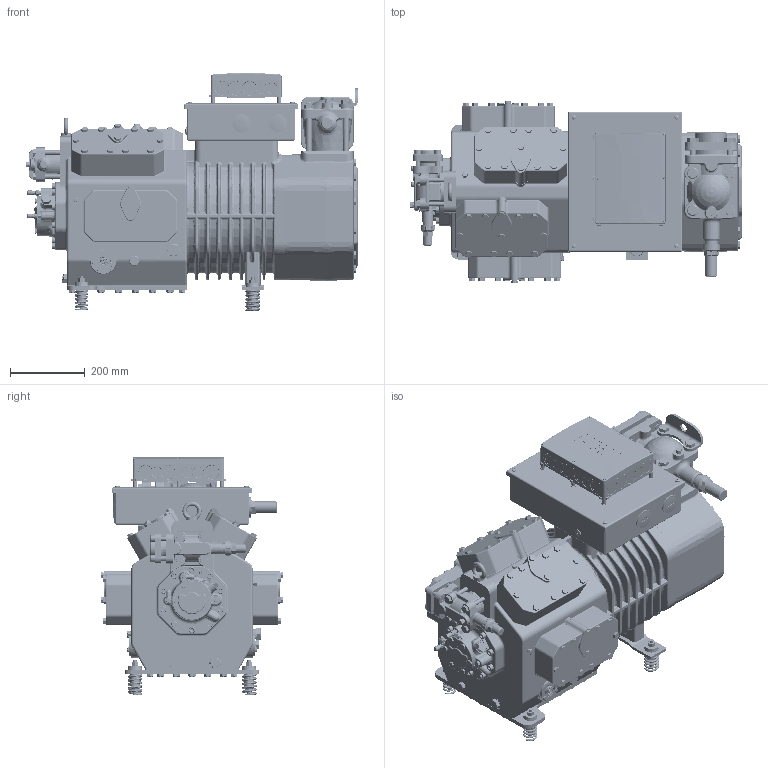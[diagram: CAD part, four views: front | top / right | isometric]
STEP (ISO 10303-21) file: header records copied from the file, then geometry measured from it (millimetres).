
FILE_DESCRIPTION(/* description */ (''),/* implementation_level */ '2;1');
FILE_NAME(/* name */ '8GE-STANDARD.stp',/* time_stamp */ '2023-10-26T09:47:43+02:00',/* author */ (''),/* organization */ (''),/* preprocessor_version */ 'ST-DEVELOPER v19.3',/* originating_system */ 'SIEMENS PLM Software NX2212.3001',/* authorisation */ '');
FILE_SCHEMA (('AUTOMOTIVE_DESIGN { 1 0 10303 214 3 1 1 1 }'));
Products named in the file (11): TERMINAL-BOX-CE8-CM-RC-02; ELECTRICAL-TERMINAL-BOX; SHUT-OFF-VALVE-D42L-BRASS-BUSH; BEARING-CAP-8FC-8GC; PLUG-3-8-18NPTF-COATED; CYL-HEAD-AIR-CYL-D75-U-82; BODY-8GE-50-60; SHUT-OFF-VALVE-D76L-3-1-8; DAMPER-ELEM-COMPL-SPRING-BLACK; DAMPER-ELEM-COMPL-SPRING-ROT; 8GE-STANDARD
Assembly tree (17 placements, depth 2):
  8GE-STANDARD
    DAMPER-ELEM-COMPL-SPRING-ROT  x2
    DAMPER-ELEM-COMPL-SPRING-BLACK  x2
    SHUT-OFF-VALVE-D76L-3-1-8
    BODY-8GE-50-60
    CYL-HEAD-AIR-CYL-D75-U-82  x4
    PLUG-3-8-18NPTF-COATED
    BEARING-CAP-8FC-8GC
    SHUT-OFF-VALVE-D42L-BRASS-BUSH
    ELECTRICAL-TERMINAL-BOX  x3
    TERMINAL-BOX-CE8-CM-RC-02
Bounding box: 886.5 x 485.36 x 635.65 mm (x, y, z)
Volume: 137439809.1 mm3; surface area: 4941624.1 mm2
Topology: 48 solids, 100 shells, 12741 faces, 32894 edges, 20888 vertices
Faces by surface type: plane 7753, cylinder 1909, cone 1224, bspline 901, torus 576, sphere 193, extrusion 179, revolution 6
Full cylindrical faces by diameter (mm): 3 x4, 3.3 x6, 3.57 x6, 4 x6, 4.8 x6, 5 x7, 5.795 x9, 6 x3, 6.7 x5, 7 x5, 7.938 x1, 8.243 x1, 8.5 x8, 8.88 x6, 10 x77, 10.287 x4, 10.29 x3, 10.5 x6, 11 x60, 12 x18, 13 x6, 13.716 x4, 14 x4, 14.16 x4, 14.59 x2, 14.63 x48, 15 x6, 16 x20, 16.16 x4, 17 x8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
Entity records: 409211 total; most frequent: CARTESIAN_POINT 163723, ORIENTED_EDGE 44110, DIRECTION 32170, EDGE_CURVE 22055, VERTEX_POINT 14363, AXIS2_PLACEMENT_3D 13003, B_SPLINE_CURVE_WITH_KNOTS 11283, EDGE_LOOP 10435
